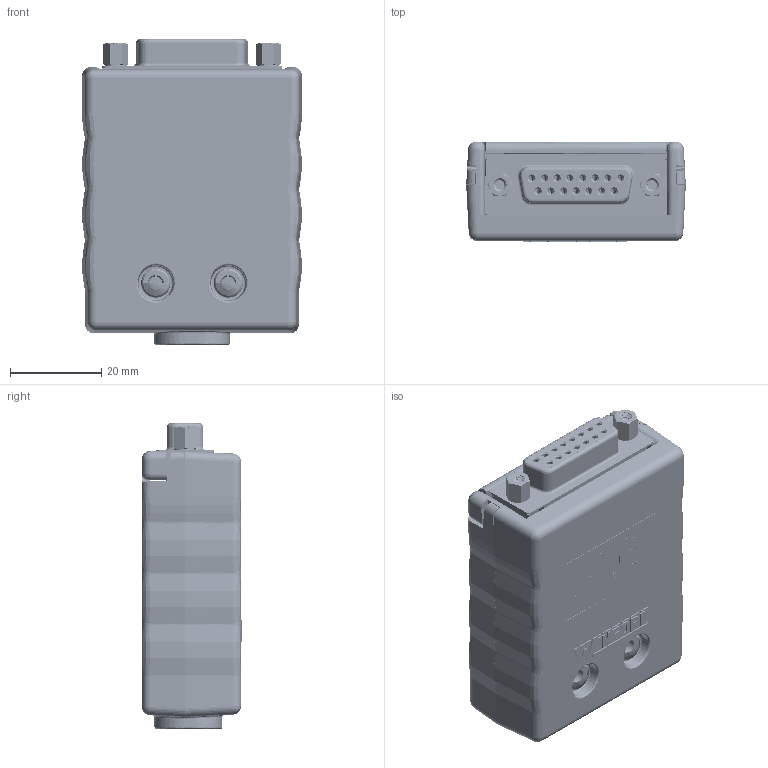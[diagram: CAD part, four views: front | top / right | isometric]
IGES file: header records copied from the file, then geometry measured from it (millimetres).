
Start section: SolidWorks IGES file using analytic representation for surfaces
Global section: file name: W:\end-user\products\brk\brke\brkead15\brkead15f\3dmodel\2024-07-25_rev_b\render\brkead15f-r_rev_b.igs; native system: SolidWorks 2018; preprocessor: SolidWorks 2018; author: leviroy; date: 240801.082127; units: inch
Bounding box: 48.07 x 22 x 66.88 mm (x, y, z)
Surface area: 39491.1 mm2 (no closed solid volume)
Topology: 0 solids, 0 shells, 12453 faces, 94202 edges, 94176 vertices
Faces by surface type: bspline 9663, revolution 2790
